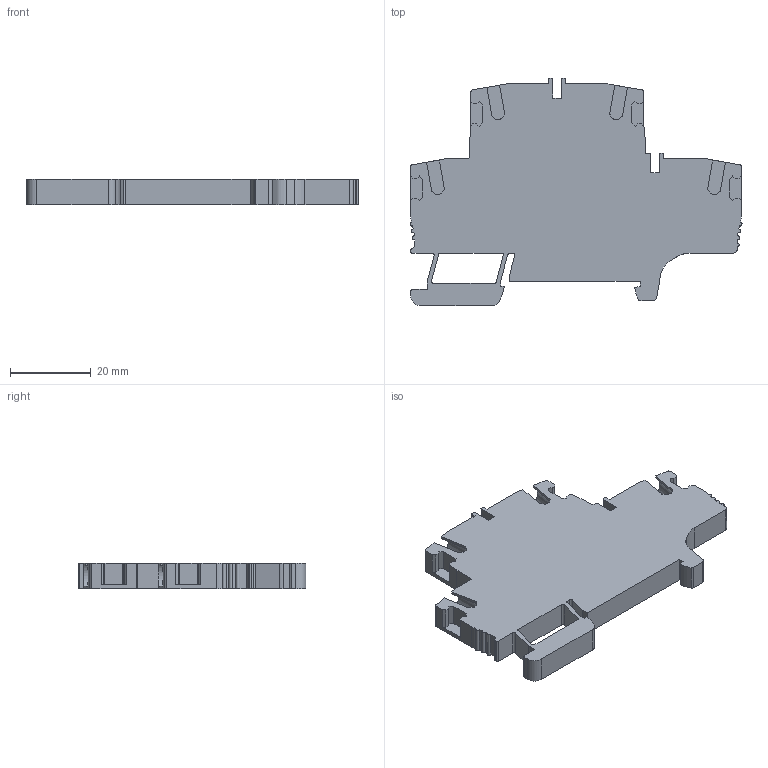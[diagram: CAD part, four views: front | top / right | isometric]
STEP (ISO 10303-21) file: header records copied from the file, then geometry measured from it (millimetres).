
FILE_DESCRIPTION(('Creo Elements/Direct Modeling STEP Export'),'2;1');
FILE_NAME('EFD.4.stp','2018-11-08T13:25:13',(''),(''),'Creo Elements/Direct Modeling STEP processor for AP214 (Solid Model)','Creo Elements/Direct Modeling 20.1 10-Mar-2018 (C) Parametric Technology GmbH','');
FILE_SCHEMA(('AUTOMOTIVE_DESIGN { 1 0 10303 214 1 1 1 1 }'));
Length unit declared in the file: millimetre
Products named in the file (1): EFD.4
Bounding box: 82.06 x 56.2 x 6.2 mm (x, y, z)
Volume: 17679 mm3; surface area: 9299.5 mm2
Topology: 1 solids, 1 shells, 284 faces, 815 edges, 544 vertices
Faces by surface type: plane 207, cylinder 77
Entity records: 9485 total; most frequent: ORIENTED_EDGE 1630, CARTESIAN_POINT 1612, DIRECTION 1501, EDGE_CURVE 815, VECTOR 635, LINE 635, VERTEX_POINT 544, AXIS2_PLACEMENT_3D 433
